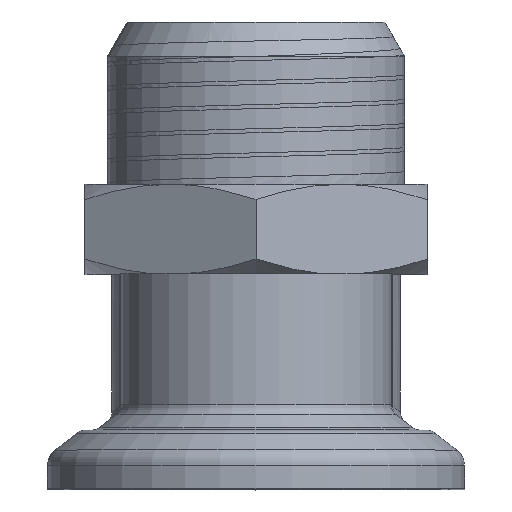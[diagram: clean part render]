
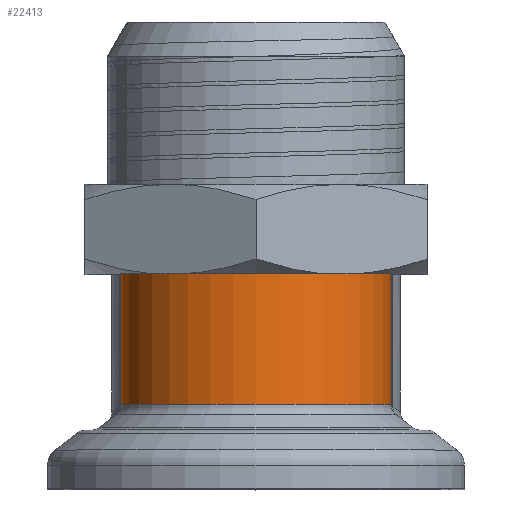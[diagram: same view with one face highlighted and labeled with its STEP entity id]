
A CAD part, top view. The second image highlights one B-rep face of the part: STEP entity #22413.
In plain terms, the highlighted cylindrical face has radius 7.495 mm (diameter 14.991 mm), a partial arc.
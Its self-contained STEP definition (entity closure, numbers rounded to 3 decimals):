
#572 = CARTESIAN_POINT ( 'NONE',  ( 0., -0.143, 19.728 ) ) ;
#970 = VERTEX_POINT ( 'NONE', #3425 ) ;
#1337 = EDGE_CURVE ( 'NONE', #8789, #970, #1450, .T. ) ;
#1450 = CIRCLE ( 'NONE', #18153, 7.495 ) ;
#2733 = DIRECTION ( 'NONE',  ( 1., 0., 0. ) ) ;
#3284 = DIRECTION ( 'NONE',  ( 0., 1., 0. ) ) ;
#3425 = CARTESIAN_POINT ( 'NONE',  ( 7.495, -7.38, 19.728 ) ) ;
#3516 = DIRECTION ( 'NONE',  ( 0., -1., 0. ) ) ;
#4137 = EDGE_LOOP ( 'NONE', ( #15225, #7063, #9768, #24039 ) ) ;
#4221 = CIRCLE ( 'NONE', #20155, 7.495 ) ;
#5053 = DIRECTION ( 'NONE',  ( 0., -1., 0. ) ) ;
#6096 = EDGE_CURVE ( 'NONE', #16985, #6659, #4221, .T. ) ;
#6603 = CARTESIAN_POINT ( 'NONE',  ( 0., -7.38, 19.728 ) ) ;
#6659 = VERTEX_POINT ( 'NONE', #11626 ) ;
#7063 = ORIENTED_EDGE ( 'NONE', *, *, #1337, .T. ) ;
#8252 = VECTOR ( 'NONE', #8677, 1000. ) ;
#8677 = DIRECTION ( 'NONE',  ( 0., -1., 0. ) ) ;
#8789 = VERTEX_POINT ( 'NONE', #9188 ) ;
#8954 = CARTESIAN_POINT ( 'NONE',  ( -7.495, -0.143, 19.728 ) ) ;
#9188 = CARTESIAN_POINT ( 'NONE',  ( -7.495, -7.38, 19.728 ) ) ;
#9586 = FACE_OUTER_BOUND ( 'NONE', #4137, .T. ) ;
#9768 = ORIENTED_EDGE ( 'NONE', *, *, #17190, .F. ) ;
#10532 = EDGE_CURVE ( 'NONE', #6659, #8789, #17715, .T. ) ;
#11626 = CARTESIAN_POINT ( 'NONE',  ( -7.495, -0.143, 19.728 ) ) ;
#11644 = CYLINDRICAL_SURFACE ( 'NONE', #19826, 7.495 ) ;
#13552 = DIRECTION ( 'NONE',  ( 0., -1., 0. ) ) ;
#13673 = CARTESIAN_POINT ( 'NONE',  ( 0., -0.143, 19.728 ) ) ;
#14081 = VECTOR ( 'NONE', #5053, 1000. ) ;
#15225 = ORIENTED_EDGE ( 'NONE', *, *, #10532, .T. ) ;
#16092 = LINE ( 'NONE', #21904, #8252 ) ;
#16985 = VERTEX_POINT ( 'NONE', #18776 ) ;
#17190 = EDGE_CURVE ( 'NONE', #16985, #970, #16092, .T. ) ;
#17715 = LINE ( 'NONE', #8954, #14081 ) ;
#18153 = AXIS2_PLACEMENT_3D ( 'NONE', #6603, #3284, #19846 ) ;
#18776 = CARTESIAN_POINT ( 'NONE',  ( 7.495, -0.143, 19.728 ) ) ;
#19061 = DIRECTION ( 'NONE',  ( 0., 0., -1. ) ) ;
#19826 = AXIS2_PLACEMENT_3D ( 'NONE', #572, #3516, #19061 ) ;
#19846 = DIRECTION ( 'NONE',  ( 0., 0., -1. ) ) ;
#20155 = AXIS2_PLACEMENT_3D ( 'NONE', #13673, #13552, #2733 ) ;
#21904 = CARTESIAN_POINT ( 'NONE',  ( 7.495, -0.143, 19.728 ) ) ;
#22413 = ADVANCED_FACE ( 'NONE', ( #9586 ), #11644, .T. ) ;
#24039 = ORIENTED_EDGE ( 'NONE', *, *, #6096, .T. ) ;
